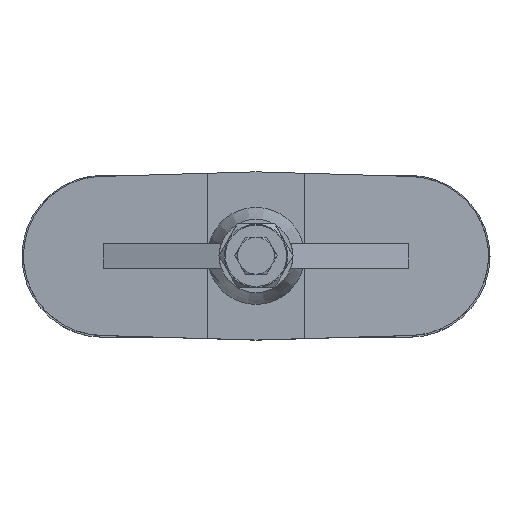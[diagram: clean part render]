
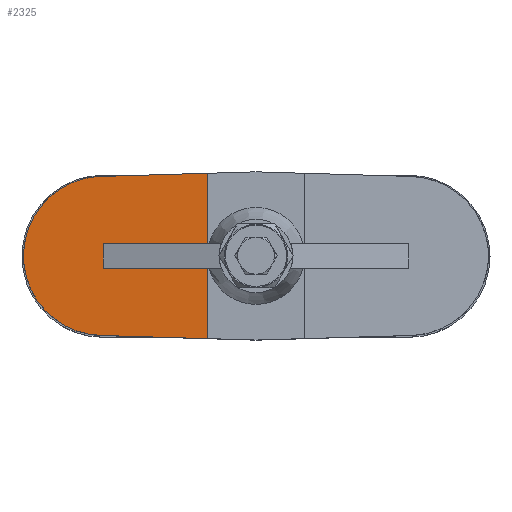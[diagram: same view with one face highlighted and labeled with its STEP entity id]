
A CAD part, top view. The second image highlights one B-rep face of the part: STEP entity #2325.
In plain terms, the highlighted planar face has unit normal (-0.033, 0, 0.999) as drawn and (0.033, 0, 0.999) by its records, which use the part's own axes.
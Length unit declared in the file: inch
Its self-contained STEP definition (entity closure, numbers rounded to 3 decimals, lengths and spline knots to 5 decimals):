
#351=ELLIPSE($,#2539,1.6259,1.625);
#400=FACE_OUTER_BOUND($,#551,.T.);
#551=EDGE_LOOP($,(#1764,#1765,#1766,#1767,#1768,#1769,#1770,#1771));
#700=LINE($,#3518,#856);
#703=LINE($,#3529,#859);
#705=LINE($,#3533,#861);
#706=LINE($,#3552,#862);
#751=LINE($,#3878,#907);
#757=LINE($,#3890,#913);
#758=LINE($,#3891,#914);
#856=VECTOR($,#2757,2.12618);
#859=VECTOR($,#2762,2.12618);
#861=VECTOR($,#2768,0.5);
#862=VECTOR($,#2781,1.43898);
#907=VECTOR($,#2982,2.17552);
#913=VECTOR($,#2998,1.43898);
#914=VECTOR($,#2999,2.17552);
#1035=VERTEX_POINT($,#3515);
#1036=VERTEX_POINT($,#3517);
#1039=VERTEX_POINT($,#3526);
#1040=VERTEX_POINT($,#3528);
#1046=VERTEX_POINT($,#3551);
#1107=VERTEX_POINT($,#3871);
#1108=VERTEX_POINT($,#3873);
#1109=VERTEX_POINT($,#3889);
#1245=EDGE_CURVE($,#1036,#1035,#700,.T.);
#1249=EDGE_CURVE($,#1040,#1039,#703,.T.);
#1252=EDGE_CURVE($,#1039,#1036,#705,.T.);
#1259=EDGE_CURVE($,#1040,#1046,#706,.T.);
#1351=EDGE_CURVE($,#1107,#1108,#351,.T.);
#1354=EDGE_CURVE($,#1046,#1107,#751,.T.);
#1360=EDGE_CURVE($,#1109,#1035,#757,.T.);
#1361=EDGE_CURVE($,#1108,#1109,#758,.T.);
#1764=ORIENTED_EDGE($,*,*,#1245,.T.);
#1765=ORIENTED_EDGE($,*,*,#1360,.F.);
#1766=ORIENTED_EDGE($,*,*,#1361,.F.);
#1767=ORIENTED_EDGE($,*,*,#1351,.F.);
#1768=ORIENTED_EDGE($,*,*,#1354,.F.);
#1769=ORIENTED_EDGE($,*,*,#1259,.F.);
#1770=ORIENTED_EDGE($,*,*,#1249,.T.);
#1771=ORIENTED_EDGE($,*,*,#1252,.T.);
#2222=PLANE($,#2545);
#2325=ADVANCED_FACE($,(#400),#2222,.F.);
#2539=AXIS2_PLACEMENT_3D($,#3874,#2976,#2977);
#2545=AXIS2_PLACEMENT_3D($,#3888,#2996,#2997);
#2757=DIRECTION($,(-0.999,0.,0.033));
#2762=DIRECTION($,(0.999,0.,-0.033));
#2768=DIRECTION($,(0.,-1.,0.));
#2781=DIRECTION($,(0.,1.,0.));
#2976=DIRECTION('center_axis',(-0.033,0.,-0.999));
#2977=DIRECTION('ref_axis',(0.999,0.,-0.033));
#2982=DIRECTION($,(0.999,-0.03,-0.033));
#2996=DIRECTION('center_axis',(-0.033,0.,-0.999));
#2997=DIRECTION('ref_axis',(-0.999,0.,0.033));
#2998=DIRECTION($,(0.,1.,0.));
#2999=DIRECTION($,(-0.999,-0.03,0.033));
#3515=CARTESIAN_POINT('',(1.,-0.25,0.25));
#3517=CARTESIAN_POINT('',(3.125,-0.25,0.17917));
#3518=CARTESIAN_POINT($,(1.37369,-0.25,0.23754));
#3526=CARTESIAN_POINT('',(3.125,0.25,0.17917));
#3528=CARTESIAN_POINT('',(1.,0.25,0.25));
#3529=CARTESIAN_POINT($,(1.37369,0.25,0.23754));
#3533=CARTESIAN_POINT($,(3.125,0.,0.17917));
#3551=CARTESIAN_POINT('',(1.,1.68898,0.25));
#3552=CARTESIAN_POINT($,(1.,0.,0.25));
#3871=CARTESIAN_POINT('',(3.17335,1.62428,0.17755));
#3873=CARTESIAN_POINT('',(3.17335,-1.62428,0.17755));
#3874=CARTESIAN_POINT('Origin',(3.125,0.,0.17917));
#3878=CARTESIAN_POINT($,(0.5298,1.70298,0.26567));
#3888=CARTESIAN_POINT('Origin',(1.,0.,0.25));
#3889=CARTESIAN_POINT('',(1.,-1.68898,0.25));
#3890=CARTESIAN_POINT($,(1.,0.,0.25));
#3891=CARTESIAN_POINT($,(2.11472,-1.6558,0.21284));
